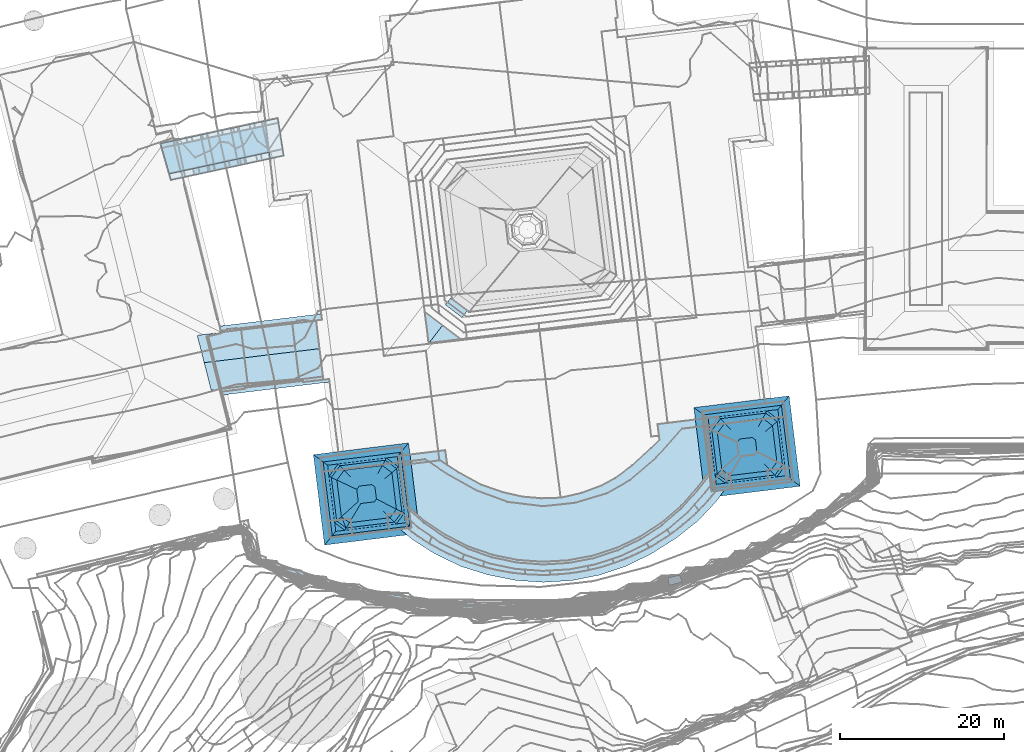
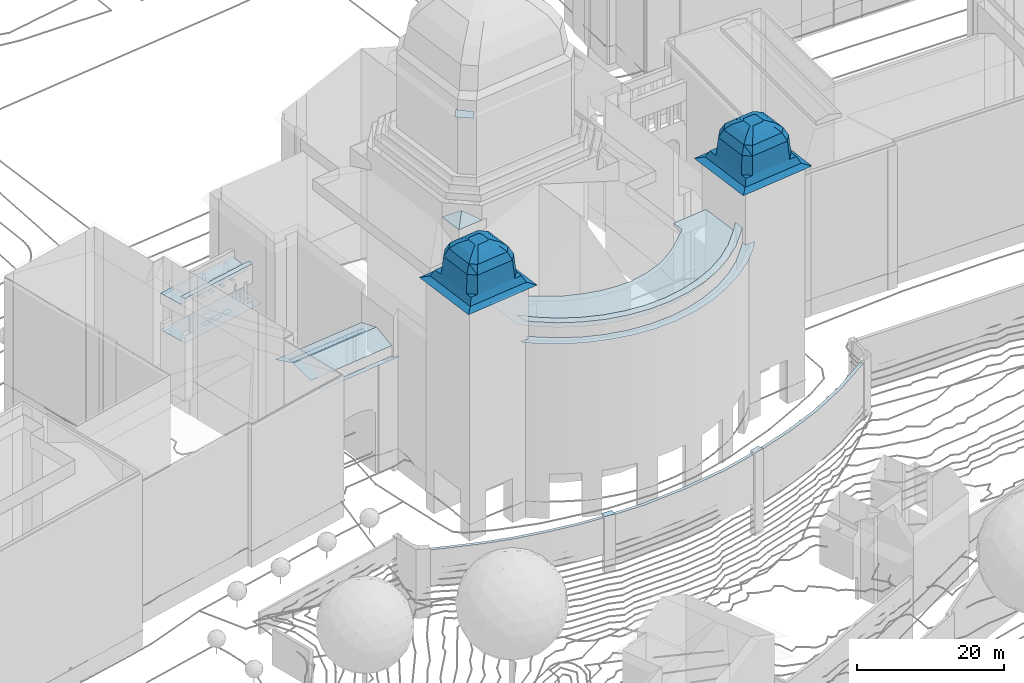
# Not in any storey, part 77 of 494: 28 roofs.
"""IFC2X3 model written with IfcOpenShell, lengths in metres."""

from ifc_helpers import new_model, si_unit, frame, origin_with_axes, place, context, subcontext, project, faceted_brep, element, save


model = new_model("IFC2X3")

# Units and contexts
model_context = context("Model", 3, precision=1e-05, world=origin_with_axes())
body_context = subcontext(model_context, "Body", "Model", "MODEL_VIEW")
ifc_project = project(units=[si_unit("AREAUNIT", "SQUARE_METRE"), si_unit("LENGTHUNIT", "METRE")], contexts=[model_context])

# Roofs
roof_1_placement = place(None, frame((211.8297320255, 101.9383160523, 526.7541), z_axis=(0.0, 0.0, 1.0), x_axis=(1.0, 0.0, 0.0)))
element("IfcRoof", 1, at=roof_1_placement, Name="Roof 0", ShapeType="NOTDEFINED", context=body_context, shape_type="Brep", body=[
    faceted_brep([(361.4830000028, 253.5117000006, 13.1967), (355.7120000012, 250.2899999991, 13.1967), (355.9690000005, 249.8583999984, 13.1967), (361.2360000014, 253.9481999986, 13.1967), (350.2200000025, 246.7958999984, 13.1967), (350.0040000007, 247.2490000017, 13.1967), (339.068, 243.1387000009, 13.1968), (339.2430000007, 242.6669999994, 13.1968), (345.0600000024, 245.1601000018, 13.1967), (345.2380000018, 244.6904000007, 13.1967)], [[[0, 1, 2]], [[1, 0, 3]], [[4, 2, 1]], [[1, 5, 4]], [[6, 7, 8]], [[5, 9, 4]], [[9, 5, 8]], [[9, 8, 7]]]),
])
roof_2_placement = place(None, frame((211.8297320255, 101.9383160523, 526.7541), z_axis=(0.0, 0.0, 1.0), x_axis=(1.0, 0.0, 0.0)))
element("IfcRoof", 2, at=roof_2_placement, Name="Roof 5", ShapeType="NOTDEFINED", context=body_context, shape_type="Brep", body=[
    faceted_brep([(281.6770000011, 292.5478000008, 24.302), (281.5109999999, 293.317400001, 24.302), (280.4050000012, 292.2734000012, 24.302), (280.2390000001, 293.0430000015, 24.302)], [[[0, 1, 2]], [[3, 2, 1]]]),
])
roof_3_placement = place(None, frame((211.8297320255, 101.9383160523, 526.7541), z_axis=(0.0, 0.0, 1.0), x_axis=(1.0, 0.0, 0.0)))
element("IfcRoof", 3, at=roof_3_placement, Name="Roof 6", ShapeType="NOTDEFINED", context=body_context, shape_type="Brep", body=[
    faceted_brep([(283.569000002, 292.9550999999, 24.302), (283.4030000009, 293.7256000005, 24.302), (282.0480000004, 293.433600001, 24.302), (282.2129999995, 292.6631000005, 24.302)], [[[0, 1, 2]], [[2, 3, 0]]]),
])
roof_4_placement = place(None, frame((211.8297320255, 101.9383160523, 526.7541), z_axis=(0.0, 0.0, 1.0), x_axis=(1.0, 0.0, 0.0)))
element("IfcRoof", 4, at=roof_4_placement, Name="Roof 7", ShapeType="NOTDEFINED", context=body_context, shape_type="Brep", body=[
    faceted_brep([(285.4720000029, 293.3652000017, 24.302), (285.3049999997, 294.1356999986, 24.302), (284.1090000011, 293.0713, 24.302), (283.943, 293.8418000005, 24.302)], [[[0, 1, 2]], [[3, 2, 1]]]),
])
roof_5_placement = place(None, frame((211.8297320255, 101.9383160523, 526.7541), z_axis=(0.0, 0.0, 1.0), x_axis=(1.0, 0.0, 0.0)))
element("IfcRoof", 5, at=roof_5_placement, Name="Roof 9", ShapeType="NOTDEFINED", context=body_context, shape_type="Brep", body=[
    faceted_brep([(290.0230000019, 298.4756000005, 23.1101), (276.8790000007, 291.5137000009, 23.1101), (290.5290000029, 295.2606999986, 23.1101), (275.756000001, 295.4052999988, 23.1101), (290.6510000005, 294.4814000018, 23.1101), (289.932, 299.0566000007, 23.1101), (275.7540000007, 295.4101000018, 23.1101), (275.5940000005, 295.9657999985, 23.1101)], [[[0, 1, 2]], [[3, 1, 0]], [[1, 4, 2]], [[0, 5, 6]], [[0, 6, 3]], [[5, 7, 6]]]),
])
roof_6_placement = place(None, frame((211.8297320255, 101.9383160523, 526.7541), z_axis=(0.0, 0.0, 1.0), x_axis=(1.0, 0.0, 0.0)))
element("IfcRoof", 6, at=roof_6_placement, Name="Roof 16", ShapeType="NOTDEFINED", context=body_context, shape_type="Brep", body=[
    faceted_brep([(283.569000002, 292.9560000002, 29.1525), (284.1090000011, 293.0722000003, 29.1525), (283.943, 293.8418000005, 29.1525), (283.4030000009, 293.7245999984, 29.1525)], [[[0, 1, 2]], [[2, 3, 0]]]),
])
roof_7_placement = place(None, frame((211.8297320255, 101.9383160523, 526.7541), z_axis=(0.0, 0.0, 1.0), x_axis=(1.0, 0.0, 0.0)))
element("IfcRoof", 7, at=roof_7_placement, Name="Roof 18", ShapeType="NOTDEFINED", context=body_context, shape_type="Brep", body=[
    faceted_brep([(280.2390000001, 293.0430000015, 29.1525), (279.5840000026, 292.9023000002, 29.1525), (280.4050000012, 292.2743999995, 29.1525), (279.751000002, 292.1328000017, 29.1525)], [[[0, 1, 2]], [[3, 2, 1]]]),
])
roof_8_placement = place(None, frame((211.8297320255, 101.9383160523, 526.7541), z_axis=(0.0, 0.0, 1.0), x_axis=(1.0, 0.0, 0.0)))
element("IfcRoof", 8, at=roof_8_placement, Name="Roof 20", ShapeType="NOTDEFINED", context=body_context, shape_type="Brep", body=[
    faceted_brep([(285.4720000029, 293.3662, 29.1525), (285.9890000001, 293.4765000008, 29.1525), (285.8230000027, 294.246100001, 29.1525), (285.3049999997, 294.1347000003, 29.1525)], [[[0, 1, 2]], [[2, 3, 0]]]),
])
roof_9_placement = place(None, frame((211.8297320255, 101.9383160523, 526.7541), z_axis=(0.0, 0.0, 1.0), x_axis=(1.0, 0.0, 0.0)))
element("IfcRoof", 9, at=roof_9_placement, Name="Roof 24", ShapeType="NOTDEFINED", context=body_context, shape_type="Brep", body=[
    faceted_brep([(282.0480000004, 293.432599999, 29.1525), (281.5109999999, 293.316399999, 29.1525), (282.2129999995, 292.6631000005, 29.1525), (281.6770000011, 292.5478000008, 29.1525)], [[[0, 1, 2]], [[3, 2, 1]]]),
])
roof_10_placement = place(None, frame((211.8297320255, 101.9383160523, 526.7541), z_axis=(0.0, 0.0, 1.0), x_axis=(1.0, 0.0, 0.0)))
element("IfcRoof", 10, at=roof_10_placement, Name="Roof 48", ShapeType="NOTDEFINED", context=body_context, shape_type="Brep", body=[
    faceted_brep([(337.569000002, 242.8828000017, 13.5627), (337.745000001, 241.9609000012, 13.5627), (339.0240000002, 243.2588, 13.5627), (339.3520000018, 242.3768999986, 13.5627)], [[[0, 1, 2]], [[3, 2, 1]]]),
])
roof_11_placement = place(None, frame((211.8297320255, 101.9383160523, 526.7541), z_axis=(0.0, 0.0, 1.0), x_axis=(1.0, 0.0, 0.0)))
element("IfcRoof", 11, at=roof_11_placement, Name="Roof 78", ShapeType="NOTDEFINED", context=body_context, shape_type="Brep", body=[
    faceted_brep([(295.7070000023, 242.7060000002, 13.1968), (295.568, 242.2245999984, 13.1968), (299.6730000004, 241.6748000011, 13.1968), (299.5620000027, 241.1845999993, 13.1968), (291.0769999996, 243.6523000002, 13.1968), (288.4350000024, 245.1152000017, 13.1968), (288.2880000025, 244.6356999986, 13.1968), (291.2360000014, 244.128899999, 13.1968), (308.8740000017, 240.1737999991, 13.1968), (304.0160000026, 240.3407999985, 13.1968), (308.8210000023, 239.6748000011, 13.1968), (312.5280000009, 239.4081999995, 13.1968), (304.0970000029, 240.8348999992, 13.1968), (312.6000000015, 239.9061999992, 13.1968)], [[[0, 1, 2]], [[2, 1, 3]], [[1, 0, 4]], [[5, 6, 7]], [[4, 7, 6]], [[7, 4, 0]], [[8, 9, 10]], [[8, 10, 11]], [[2, 3, 12]], [[13, 8, 11]], [[12, 9, 8]], [[12, 3, 9]]]),
])
roof_12_placement = place(None, frame((211.8297320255, 101.9383160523, 526.7541), z_axis=(0.0, 0.0, 1.0), x_axis=(1.0, 0.0, 0.0)))
element("IfcRoof", 12, at=roof_12_placement, Name="Roof 79", ShapeType="NOTDEFINED", context=body_context, shape_type="Brep", body=[
    faceted_brep([(312.6220000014, 240.0546999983, 13.5627), (312.4869999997, 239.1259999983, 13.5627), (314.1160000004, 239.9472000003, 13.5627), (314.1410000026, 239.0088, 13.5627)], [[[0, 1, 2]], [[3, 2, 1]]]),
])
roof_13_placement = place(None, frame((211.8297320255, 101.9383160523, 526.7541), z_axis=(0.0, 0.0, 1.0), x_axis=(1.0, 0.0, 0.0)))
element("IfcRoof", 13, at=roof_13_placement, Name="Roof 80", ShapeType="NOTDEFINED", context=body_context, shape_type="Brep", body=[
    faceted_brep([(314.132000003, 239.3476000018, 13.1968), (318.8709999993, 239.2518999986, 13.1968), (318.8550000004, 239.754900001, 13.1968), (314.1180000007, 239.8495999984, 13.1968), (325.882000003, 240.3310000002, 13.1968), (325.943, 239.8330000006, 13.1968), (332.6730000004, 240.9354999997, 13.1968), (332.5710000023, 241.4277000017, 13.1968), (337.6970000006, 242.2089999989, 13.1968), (337.6030000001, 242.7030999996, 13.1968)], [[[0, 1, 2]], [[2, 3, 0]], [[4, 2, 1]], [[1, 5, 4]], [[6, 7, 4]], [[8, 7, 6]], [[7, 8, 9]], [[4, 5, 6]]]),
])
roof_14_placement = place(None, frame((516.5377320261, 359.7107160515, 536.6602), z_axis=(0.0, 0.0, 1.0), x_axis=(1.0, 0.0, 0.0)))
element("IfcRoof", 14, at=roof_14_placement, Name="Roof 1", ShapeType="NOTDEFINED", context=body_context, shape_type="Brep", body=[
    faceted_brep([(3.6610000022, 13.7872000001, 33.0869), (5.3359999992, 15.9688000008, 34.4167), (3.1920000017, 17.6044999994, 33.0869), (7.5659999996, 14.2657000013, 33.0869)], [[[0, 1, 2]], [[1, 0, 3]]]),
])
roof_15_placement = place(None, frame((516.5377320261, 359.7107160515, 536.6602), z_axis=(0.0, 0.0, 1.0), x_axis=(1.0, 0.0, 0.0)))
element("IfcRoof", 15, at=roof_15_placement, Name="Roof 2", ShapeType="NOTDEFINED", context=body_context, shape_type="Brep", body=[
    faceted_brep([(6.5350000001, 19.1534000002, 48.7154), (6.4930000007, 19.496100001, 48.8224), (5.6970000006, 18.4893000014, 48.2674), (8.3650000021, 17.7569000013, 48.7154), (7.7219999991, 16.9444000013, 48.2674)], [[[0, 1, 2]], [[3, 0, 4]], [[4, 0, 2]]]),
])
roof_16_placement = place(None, frame((516.5377320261, 359.7107160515, 536.6602), z_axis=(0.0, 0.0, 1.0), x_axis=(1.0, 0.0, 0.0)))
element("IfcRoof", 16, at=roof_16_placement, Name="Roof 12", ShapeType="NOTDEFINED", context=body_context, shape_type="Brep", body=[
    faceted_brep([(41.0329999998, -1.4228000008, 44.8107), (40.4589999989, -2.3797999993, 44.0418), (45.432, -1.7705000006, 44.0418), (44.6460000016, -0.9793999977, 44.8107), (41.8630000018, -0.0361000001, 45.3876), (43.5080000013, 0.1660999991, 45.3876), (39.9030000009, -3.3084999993, 39.8132), (38.6660000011, -2.3924999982, 39.8132), (38.7950000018, -3.4452999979, 39.8132), (46.2019999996, -0.7265000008, 44.0418), (45.2060000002, -0.2206999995, 44.8107), (43.7630000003, 0.5108000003, 45.3876), (37.9690000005, 3.2793000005, 39.8132), (39.0969999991, 4.8027999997, 39.8132), (37.800999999, 4.6436000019, 39.8132), (47.1689999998, -1.2177000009, 39.8132), (46.193, -2.5361000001, 39.8132), (47.3139999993, -2.3983999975, 39.8132), (39.9220000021, 2.3614000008, 44.8107), (38.9299999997, 2.8282000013, 44.0418), (40.3220000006, -0.8973999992, 44.8107), (39.4809999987, -1.6571999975, 44.0418), (41.3579999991, 1.6865999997, 45.3876), (41.5390000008, 0.2032000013, 45.3876), (40.068, -3.0321999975, 42.7929), (45.9670000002, -2.307599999, 42.7929), (38.9090000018, -2.1728000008, 42.7929), (46.881000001, -1.0722000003, 42.7929), (38.3650000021, -3.9668000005, 38.7563), (47.8570000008, -2.8006999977, 38.7563), (37.2580000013, 5.0469000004, 38.7563), (38.254999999, 3.1436000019, 42.7929), (39.9030000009, -3.3084999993, 39.6132), (40.068, -3.0321999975, 42.5929), (46.193, -2.5361000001, 39.6132), (45.9670000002, -2.307599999, 42.5929), (43.0170000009, -2.6699000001, 42.7889), (38.9090000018, -2.1728000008, 42.5929), (38.6660000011, -2.3924999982, 39.6132), (37.9690000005, 3.2793000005, 39.6132), (38.254999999, 3.1436000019, 42.5929), (46.881000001, -1.0722000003, 42.5929), (47.1689999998, -1.2177000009, 39.6132)], [[[0, 1, 2]], [[2, 3, 0]], [[4, 0, 3]], [[3, 5, 4]], [[6, 7, 8]], [[2, 9, 3]], [[10, 3, 9]], [[3, 10, 5]], [[11, 5, 10]], [[12, 13, 14]], [[15, 16, 17]], [[18, 19, 20]], [[21, 20, 19]], [[22, 18, 23]], [[20, 23, 18]], [[1, 24, 25]], [[25, 2, 1]], [[24, 21, 26]], [[2, 25, 9]], [[27, 9, 25]], [[28, 6, 8]], [[6, 28, 16]], [[16, 29, 17]], [[29, 16, 28]], [[30, 12, 14]], [[12, 30, 28]], [[7, 28, 8]], [[28, 7, 12]], [[19, 31, 21]], [[26, 21, 31]], [[32, 33, 34]], [[35, 34, 33]], [[24, 6, 36]], [[36, 16, 25]], [[16, 36, 6]], [[24, 26, 7]], [[7, 6, 24]], [[37, 33, 38]], [[32, 38, 33]], [[31, 12, 26]], [[7, 26, 12]], [[39, 40, 37]], [[37, 38, 39]], [[27, 25, 15]], [[16, 15, 25]], [[35, 41, 42]], [[42, 34, 35]]]),
])
roof_17_placement = place(None, frame((516.5377320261, 359.7107160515, 536.6602), z_axis=(0.0, 0.0, 1.0), x_axis=(1.0, 0.0, 0.0)))
element("IfcRoof", 17, at=roof_17_placement, Name="Roof 13", ShapeType="NOTDEFINED", context=body_context, shape_type="Brep", body=[
    faceted_brep([(40.5710000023, 3.2364000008, 44.8107), (39.8220000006, 4.0322999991, 44.0418), (39.9220000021, 2.3614000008, 44.8107), (38.9299999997, 2.8282000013, 44.0418), (41.6530000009, 2.0859999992, 45.3876), (41.3579999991, 1.6865999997, 45.3876), (43.9539999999, 3.6524000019, 44.8107), (44.4800000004, 4.6044999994, 44.0418), (43.193, 2.2745000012, 45.3876), (41.0329999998, -1.4228000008, 44.8107), (40.3220000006, -0.8973999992, 44.8107), (39.4809999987, -1.6571999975, 44.0418), (40.4589999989, -2.3797999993, 44.0418), (41.8630000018, -0.0361000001, 45.3876), (41.5390000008, 0.2032000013, 45.3876), (43.7630000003, 0.5108000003, 45.3876), (43.5820000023, 1.9864000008, 45.3876), (43.5080000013, 0.1660999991, 45.3876), (45.2060000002, -0.2206999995, 44.8107), (46.2019999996, -0.7265000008, 44.0418), (45.6550000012, 3.7354000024, 44.0418), (44.8080000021, 3.0196000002, 44.8107), (38.2129999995, -4.1523000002, 38.6973), (37.4200000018, -5.1141999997, 38.3933), (48.2199999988, -3.0692999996, 38.6463), (38.3650000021, -3.9668000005, 38.7563), (47.8570000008, -2.8006999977, 38.7563), (49.0520000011, -3.6844999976, 38.3933), (37.069000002, 5.1865999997, 38.6993), (37.2580000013, 5.0469000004, 38.7563), (36.063000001, 5.9307000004, 38.3933), (47.0450000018, 6.572300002, 38.6423), (47.6950000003, 7.3604000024, 38.3933), (46.75, 6.2129000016, 38.7563), (44.9890000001, 5.5274000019, 39.8132), (46.4750000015, 4.4257999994, 39.8132), (46.3200000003, 5.6905000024, 39.8132), (39.313000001, 4.5733000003, 42.7929), (38.254999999, 3.1436000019, 42.7929), (44.8370000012, 5.2520000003, 42.7929), (40.068, -3.0321999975, 42.7929), (46.881000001, -1.0722000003, 42.7929), (46.2309999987, 4.2197999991, 42.7929), (39.0969999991, 4.8027999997, 39.8132), (37.800999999, 4.6436000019, 39.8132), (47.1689999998, -1.2177000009, 39.8132), (47.3139999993, -2.3983999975, 39.8132), (37.9690000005, 3.2793000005, 39.8132), (37.9690000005, 3.2793000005, 39.6132), (39.0969999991, 4.8027999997, 39.6132), (38.254999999, 3.1436000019, 42.5929), (39.313000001, 4.5733000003, 42.5929), (44.9890000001, 5.5274000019, 39.6132), (44.8370000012, 5.2520000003, 42.5929), (47.1689999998, -1.2177000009, 39.6132), (46.881000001, -1.0722000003, 42.5929), (46.4750000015, 4.4257999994, 39.6132), (46.2309999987, 4.2197999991, 42.5929)], [[[0, 1, 2]], [[3, 2, 1]], [[0, 2, 4]], [[5, 4, 2]], [[6, 7, 0]], [[1, 0, 7]], [[8, 6, 4]], [[0, 4, 6]], [[9, 10, 11]], [[11, 12, 9]], [[13, 14, 10]], [[10, 9, 13]], [[5, 14, 15]], [[8, 4, 5]], [[15, 14, 13]], [[16, 5, 15]], [[8, 5, 16]], [[15, 13, 17]], [[18, 19, 20]], [[20, 21, 18]], [[15, 18, 21]], [[21, 16, 15]], [[22, 23, 24]], [[25, 22, 26]], [[22, 24, 26]], [[24, 23, 27]], [[28, 25, 29]], [[22, 28, 30]], [[28, 22, 25]], [[22, 30, 23]], [[31, 32, 30]], [[33, 31, 28]], [[28, 29, 33]], [[30, 28, 31]], [[24, 27, 31]], [[26, 24, 33]], [[24, 31, 33]], [[31, 27, 32]], [[34, 35, 36]], [[21, 20, 7]], [[7, 6, 21]], [[8, 16, 21]], [[21, 6, 8]], [[1, 37, 3]], [[38, 3, 37]], [[7, 39, 1]], [[37, 1, 39]], [[11, 40, 12]], [[19, 41, 42]], [[42, 20, 19]], [[33, 34, 36]], [[34, 33, 29]], [[43, 29, 44]], [[29, 43, 34]], [[26, 45, 46]], [[45, 26, 35]], [[35, 33, 36]], [[33, 35, 26]], [[20, 42, 39]], [[39, 7, 20]], [[43, 47, 38]], [[38, 37, 43]], [[48, 49, 50]], [[51, 50, 49]], [[39, 34, 37]], [[43, 37, 34]], [[52, 53, 51]], [[51, 49, 52]], [[41, 45, 35]], [[35, 42, 41]], [[54, 55, 56]], [[57, 56, 55]], [[39, 42, 35]], [[35, 34, 39]], [[57, 53, 56]], [[52, 56, 53]]]),
])
roof_18_placement = place(None, frame((516.5377320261, 359.7107160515, 536.6602), z_axis=(0.0, 0.0, 1.0), x_axis=(1.0, 0.0, 0.0)))
element("IfcRoof", 18, at=roof_18_placement, Name="Roof 18", ShapeType="NOTDEFINED", context=body_context, shape_type="Brep", body=[
    faceted_brep([(-16.2919999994, 40.9571000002, 19.2464), (-29.1140000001, 38.1933999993, 19.2464), (-16.0130000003, 38.6807000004, 19.2464), (-28.0480000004, 34.5, 19.2464), (-15.8289999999, 37.1338, 19.2464)], [[[0, 1, 2]], [[3, 2, 1]], [[3, 4, 2]]]),
])
roof_19_placement = place(None, frame((516.5377320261, 359.7107160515, 536.6602), z_axis=(0.0, 0.0, 1.0), x_axis=(1.0, 0.0, 0.0)))
element("IfcRoof", 19, at=roof_19_placement, Name="Roof 19", ShapeType="NOTDEFINED", context=body_context, shape_type="Brep", body=[
    faceted_brep([(-15.8220000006, 37.134800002, 20.6043), (-28.0480000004, 34.5, 20.6043), (-15.7249999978, 36.3476999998, 20.6043), (-27.8289999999, 33.7402999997, 20.6043)], [[[0, 1, 2]], [[3, 2, 1]]]),
])
roof_20_placement = place(None, frame((516.5377320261, 359.7107160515, 536.6602), z_axis=(0.0, 0.0, 1.0), x_axis=(1.0, 0.0, 0.0)))
element("IfcRoof", 20, at=roof_20_placement, Name="Roof 20", ShapeType="NOTDEFINED", context=body_context, shape_type="Brep", body=[
    faceted_brep([(2.3819999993, -8.7597000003, 29.4762), (1.5490000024, -8.7743999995, 29.4762), (1.5800000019, -10.1405999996, 29.4762), (1.0340000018, -8.8398000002, 29.4762), (0.1790000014, -8.9442999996, 29.4762), (4.3320000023, -11.9002999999, 29.4762), (5.0839999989, -10.5995999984, 29.4762), (7.568, -13.4725999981, 29.4762), (10.8670000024, -14.5018999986, 29.4762), (8.0020000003, -12.0711999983, 29.4762), (11.0879999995, -13.1483999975, 29.4762), (14.2459999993, -15.1844999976, 29.4762), (1.4809999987, -8.2557999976, 29.4762), (1.4479999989, -7.9266999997, 29.4762), (14.2879999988, -13.8143999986, 29.4762), (17.6850000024, -15.4208999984, 29.4762), (17.5480000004, -14.0555999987, 29.4762), (21.125, -15.2060000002, 29.4762), (20.8110000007, -13.8710999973, 29.4762), (24.5080000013, -14.5438999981, 29.4762), (24.0219999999, -13.2606999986, 29.4762), (27.7750000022, -13.4461999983, 29.4761), (30.0700000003, -10.8182999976, 29.4762), (27.126000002, -12.2381999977, 29.4762), (30.8709999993, -11.9305999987, 29.4761), (33.8949999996, -10.0214000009, 29.4761), (32.8029999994, -9.0262999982, 29.4762), (36.5210000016, -7.9452999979, 29.4761), (35.2800000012, -6.8915999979, 29.4762), (38.8399999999, -5.4959999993, 29.4761), (37.4310000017, -4.4824000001, 29.4762), (38.2340000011, -4.3270999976, 29.4762), (38.1429999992, -3.5742000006, 29.4762), (38.7580000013, -4.2987999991, 29.4762), (39.762000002, -4.1620999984, 29.4762)], [[[0, 1, 2]], [[3, 4, 2]], [[1, 3, 2]], [[2, 5, 6]], [[7, 8, 9]], [[6, 5, 9]], [[8, 10, 9]], [[2, 6, 0]], [[9, 5, 7]], [[11, 10, 8]], [[12, 1, 0]], [[13, 12, 0]], [[11, 14, 10]], [[14, 11, 15]], [[14, 15, 16]], [[16, 17, 18]], [[17, 16, 15]], [[18, 17, 19]], [[20, 19, 21]], [[19, 20, 18]], [[22, 23, 24]], [[21, 23, 20]], [[24, 23, 21]], [[25, 26, 22]], [[26, 25, 27]], [[25, 22, 24]], [[28, 27, 29]], [[27, 28, 26]], [[28, 29, 30]], [[30, 31, 32]], [[29, 31, 30]], [[31, 29, 33]], [[29, 34, 33]]]),
])
roof_21_placement = place(None, frame((516.5377320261, 359.7107160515, 536.6602), z_axis=(0.0, 0.0, 1.0), x_axis=(1.0, 0.0, 0.0)))
element("IfcRoof", 21, at=roof_21_placement, Name="Roof 21", ShapeType="NOTDEFINED", context=body_context, shape_type="Brep", body=[
    faceted_brep([(29.5179999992, -9.8418000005, 30.3921), (19.8020000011, -5.1034999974, 30.3921), (26.7060000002, -11.1981999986, 30.3921), (23.7410000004, -12.1756999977, 30.3921), (32.1290000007, -8.1297999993, 30.3921), (22.443, -4.4969999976, 30.3921), (24.8040000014, -3.5995999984, 30.3921), (36.5720000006, -3.7626999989, 30.3921), (26.4290000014, -2.7040999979, 30.3921), (34.493999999, -6.0918000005, 30.3921), (37.9499999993, -2.0047999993, 30.3921), (28.4860000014, -1.2010999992, 30.3921), (14.444000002, -12.7040999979, 30.3921), (17.557, -12.9344999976, 30.3921), (11.3880000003, -12.0682999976, 30.3921), (8.4400000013, -11.0390000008, 30.3921), (17.4670000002, -5.182599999, 30.3921), (20.6740000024, -12.7577999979, 30.3921), (15.1059999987, -4.9715999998, 30.3921), (3.0720000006, -7.8768999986, 30.3921), (5.6530000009, -9.6327999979, 30.3921), (12.6689999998, -4.4178999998, 30.3921), (30.8469999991, 0.9882999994, 30.3921), (37.1460000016, 4.5595999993, 30.3921), (31.8709999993, 2.0069000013, 30.3921), (31.6409999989, 3.8838, 30.3921), (10.0540000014, -3.5214000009, 30.3921), (1.243999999, -6.2381999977, 30.3921), (0.8310000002, -2.8299999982, 30.3921), (7.313000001, -2.0174999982, 30.3921), (5.9479999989, -1.123999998, 30.3921), (0.4849999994, 0.058600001, 30.3921), (5.7030000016, 0.7002000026, 30.3921)], [[[0, 1, 2]], [[2, 1, 3]], [[0, 4, 5]], [[6, 7, 8]], [[9, 6, 5]], [[6, 9, 7]], [[9, 5, 4]], [[7, 10, 11]], [[5, 1, 0]], [[12, 13, 1]], [[12, 1, 14]], [[15, 14, 16]], [[17, 1, 13]], [[18, 15, 16]], [[19, 20, 21]], [[20, 15, 18]], [[21, 20, 18]], [[16, 14, 1]], [[17, 3, 1]], [[11, 10, 22]], [[8, 7, 11]], [[10, 23, 22]], [[22, 23, 24]], [[25, 24, 23]], [[26, 27, 19]], [[28, 27, 29]], [[27, 26, 29]], [[19, 21, 26]], [[30, 31, 28]], [[32, 31, 30]], [[30, 28, 29]]]),
])
roof_22_placement = place(None, frame((516.5377320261, 359.7107160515, 536.6602), z_axis=(0.0, 0.0, 1.0), x_axis=(1.0, 0.0, 0.0)))
element("IfcRoof", 22, at=roof_22_placement, Name="Roof 22", ShapeType="NOTDEFINED", context=body_context, shape_type="Brep", body=[
    faceted_brep([(11.0879999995, -13.1483999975, 31.9489), (11.3880000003, -12.0682999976, 31.9489), (8.0020000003, -12.0711999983, 31.9489), (14.444000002, -12.7040999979, 31.9489), (8.4400000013, -11.0390000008, 31.9489), (5.0839999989, -10.5995999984, 31.9489), (17.557, -12.9344999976, 31.9489), (17.5480000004, -14.0555999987, 31.9489), (20.6740000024, -12.7577999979, 31.9489), (14.2879999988, -13.8143999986, 31.9489), (3.0720000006, -7.8768999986, 31.9489), (1.4389999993, -7.9188999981, 31.9489), (2.3819999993, -8.7597000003, 31.9489), (5.6530000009, -9.6327999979, 31.9489), (1.2380000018, -6.2324000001, 31.9489), (20.8110000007, -13.8710999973, 31.9489), (30.0700000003, -10.8182999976, 31.9489), (32.8029999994, -9.0262999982, 31.9489), (32.1290000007, -8.1297999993, 31.9489), (29.5179999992, -9.8418000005, 31.9489), (27.126000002, -12.2381999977, 31.9489), (35.2800000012, -6.8915999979, 31.9489), (37.4310000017, -4.4824000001, 31.9489), (34.493999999, -6.0918000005, 31.9489), (36.5720000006, -3.7626999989, 31.9489), (38.1429999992, -3.5751999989, 31.9489), (24.0219999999, -13.2606999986, 31.9489), (26.7060000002, -11.1981999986, 31.9489), (23.7410000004, -12.1756999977, 31.9489), (37.9499999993, -2.0047999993, 31.9489)], [[[0, 1, 2]], [[1, 0, 3]], [[2, 4, 5]], [[4, 2, 1]], [[6, 7, 8]], [[9, 6, 3]], [[6, 9, 7]], [[9, 3, 0]], [[10, 11, 12]], [[13, 10, 12]], [[13, 5, 4]], [[14, 11, 10]], [[12, 5, 13]], [[8, 7, 15]], [[16, 17, 18]], [[18, 19, 16]], [[16, 19, 20]], [[17, 21, 18]], [[21, 22, 23]], [[23, 22, 24]], [[25, 24, 22]], [[21, 23, 18]], [[26, 27, 28]], [[26, 20, 27]], [[8, 15, 28]], [[28, 15, 26]], [[24, 25, 29]], [[20, 19, 27]]]),
])
roof_23_placement = place(None, frame((516.5377320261, 359.7107160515, 536.6602), z_axis=(0.0, 0.0, 1.0), x_axis=(1.0, 0.0, 0.0)))
element("IfcRoof", 23, at=roof_23_placement, Name="Roof 23", ShapeType="NOTDEFINED", context=body_context, shape_type="Brep", body=[
    faceted_brep([(-5.4679999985, -7.1756999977, 44.8107), (-6.0419999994, -8.1327999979, 44.0418), (-1.0689999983, -7.5233999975, 44.0418), (-1.8550000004, -6.7324000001, 44.8107), (-4.6380000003, -5.7890000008, 45.3877), (-2.9930000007, -5.5868999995, 45.3877), (-6.5980000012, -9.0625, 39.8132), (-7.8350000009, -8.1464000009, 39.8132), (-7.7060000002, -9.1981999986, 39.8132), (-0.2989999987, -6.4803999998, 44.0418), (-1.2949999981, -5.9736000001, 44.8107), (-2.737999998, -5.2421000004, 45.3877), (-8.5319999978, -2.4736000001, 39.8132), (-7.4039999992, -0.9501999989, 39.8132), (-8.6999999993, -1.1092999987, 39.8132), (0.6680000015, -6.9706999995, 39.8132), (-0.3079999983, -8.2890000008, 39.8132), (0.813000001, -8.1512999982, 39.8132), (-6.5789999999, -3.3915999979, 44.8107), (-7.5709999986, -2.9247999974, 44.0418), (-6.1789999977, -6.6502999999, 44.8107), (-7.0199999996, -7.4100999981, 44.0418), (-5.1429999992, -4.066399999, 45.3877), (-4.9620000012, -5.5497999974, 45.3877), (-6.4329999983, -8.7850999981, 42.7929), (-0.5339999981, -8.061499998, 42.7929), (-7.5920000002, -7.9256999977, 42.7929), (0.379999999, -6.8251999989, 42.7929), (-8.1359999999, -9.7196999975, 38.7563), (1.3559999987, -8.5537, 38.7563), (-9.2430000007, -0.7060000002, 38.7563), (-8.2459999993, -2.6092999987, 42.7929), (-3.4840000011, -8.4228000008, 42.7889), (-6.5980000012, -9.0625, 39.6132), (-6.4329999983, -8.7850999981, 42.5929), (-0.3079999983, -8.2890000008, 39.6132), (-0.5339999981, -8.061499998, 42.5929), (-7.5920000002, -7.9256999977, 42.5929), (-7.8350000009, -8.1464000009, 39.6132), (-8.5319999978, -2.4736000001, 39.6132), (-8.2459999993, -2.6092999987, 42.5929), (0.379999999, -6.8251999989, 42.5929), (0.6680000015, -6.9706999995, 39.6132)], [[[0, 1, 2]], [[2, 3, 0]], [[4, 0, 3]], [[3, 5, 4]], [[6, 7, 8]], [[2, 9, 3]], [[10, 3, 9]], [[3, 10, 5]], [[11, 5, 10]], [[12, 13, 14]], [[15, 16, 17]], [[18, 19, 20]], [[21, 20, 19]], [[22, 18, 23]], [[20, 23, 18]], [[1, 24, 25]], [[25, 2, 1]], [[24, 21, 26]], [[2, 25, 9]], [[27, 9, 25]], [[28, 6, 8]], [[6, 28, 16]], [[16, 29, 17]], [[29, 16, 28]], [[30, 12, 14]], [[12, 30, 28]], [[7, 28, 8]], [[28, 7, 12]], [[19, 31, 21]], [[26, 21, 31]], [[25, 24, 32]], [[33, 34, 35]], [[36, 35, 34]], [[24, 6, 32]], [[32, 16, 25]], [[16, 32, 6]], [[24, 26, 7]], [[7, 6, 24]], [[37, 34, 38]], [[33, 38, 34]], [[31, 12, 26]], [[7, 26, 12]], [[39, 40, 37]], [[37, 38, 39]], [[27, 25, 15]], [[16, 15, 25]], [[36, 41, 35]], [[42, 35, 41]]]),
])
roof_24_placement = place(None, frame((516.5377320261, 359.7107160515, 536.6602), z_axis=(0.0, 0.0, 1.0), x_axis=(1.0, 0.0, 0.0)))
element("IfcRoof", 24, at=roof_24_placement, Name="Roof 24", ShapeType="NOTDEFINED", context=body_context, shape_type="Brep", body=[
    faceted_brep([(-5.9299999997, -2.5165999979, 44.8107), (-6.6789999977, -1.7206999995, 44.0418), (-6.5789999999, -3.3915999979, 44.8107), (-7.5709999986, -2.9247999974, 44.0418), (-5.1429999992, -4.066399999, 45.3877), (-4.8480000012, -3.6668999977, 45.3877), (-2.5469999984, -2.1004999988, 44.8107), (-2.0209999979, -1.1483999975, 44.0418), (-3.3079999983, -3.4793999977, 45.3877), (-5.4679999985, -7.1756999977, 44.8107), (-6.1789999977, -6.6502999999, 44.8107), (-7.0199999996, -7.4100999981, 44.0418), (-6.0419999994, -8.1327999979, 44.0418), (-4.6380000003, -5.7890000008, 45.3877), (-4.9620000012, -5.5497999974, 45.3877), (-2.9930000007, -5.5868999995, 45.3877), (-2.737999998, -5.2421000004, 45.3877), (-2.9189999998, -3.7665999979, 45.3877), (-1.2949999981, -5.9736000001, 44.8107), (-0.2989999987, -6.4803999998, 44.0418), (-0.8460000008, -2.0174999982, 44.0418), (-1.693, -2.7333999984, 44.8107), (-8.3619999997, -9.9941000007, 38.6693), (1.3559999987, -8.5537, 38.7563), (-8.1359999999, -9.7196999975, 38.7563), (2.550999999, -9.4384000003, 38.3933), (-9.0810000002, -10.8671000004, 38.3933), (-9.5489999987, -0.4794999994, 38.6633), (-9.2430000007, -0.7060000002, 38.7563), (-10.438000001, 0.1777999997, 38.3934), (0.4129999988, 0.6601999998, 38.6933), (1.194000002, 1.6075000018, 38.3933), (0.2490000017, 0.4600000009, 38.7563), (-1.5119999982, -0.2254999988, 39.8132), (-0.0260000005, -1.3270999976, 39.8132), (-0.180999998, -0.0634000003, 39.8132), (-7.188000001, -1.1796000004, 42.7929), (-8.2459999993, -2.6092999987, 42.7929), (-1.6640000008, -0.5009000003, 42.7929), (-6.4329999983, -8.7850999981, 42.7929), (0.379999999, -6.8251999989, 42.7929), (-0.2699999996, -1.5331999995, 42.7929), (-7.4039999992, -0.9501999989, 39.8132), (-8.6999999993, -1.1092999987, 39.8132), (0.6680000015, -6.9706999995, 39.8132), (0.813000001, -8.1512999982, 39.8132), (-8.5319999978, -2.4736000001, 39.8132), (-8.5319999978, -2.4736000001, 39.6132), (-7.4039999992, -0.9501000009, 39.6132), (-8.2459999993, -2.6092999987, 42.5929), (-7.188000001, -1.1796000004, 42.5929), (-1.5119999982, -0.2254999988, 39.6132), (-1.6640000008, -0.5009000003, 42.5929), (0.6680000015, -6.9706999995, 39.6132), (0.379999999, -6.8251999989, 42.5929), (-0.0260000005, -1.3270999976, 39.6132), (-0.2699999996, -1.5331999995, 42.5929)], [[[0, 1, 2]], [[3, 2, 1]], [[0, 2, 4]], [[4, 5, 0]], [[6, 7, 0]], [[1, 0, 7]], [[8, 6, 5]], [[0, 5, 6]], [[9, 10, 11]], [[11, 12, 9]], [[13, 14, 10]], [[10, 9, 13]], [[14, 13, 4]], [[8, 5, 4]], [[4, 13, 8]], [[15, 16, 8]], [[17, 8, 16]], [[15, 8, 13]], [[18, 19, 20]], [[20, 21, 18]], [[16, 18, 21]], [[21, 17, 16]], [[22, 23, 24]], [[25, 22, 26]], [[23, 22, 25]], [[27, 22, 28]], [[26, 27, 29]], [[22, 24, 28]], [[26, 22, 27]], [[30, 31, 27]], [[32, 30, 28]], [[27, 28, 30]], [[29, 27, 31]], [[23, 25, 30]], [[23, 30, 32]], [[30, 25, 31]], [[33, 34, 35]], [[21, 20, 7]], [[7, 6, 21]], [[8, 17, 21]], [[21, 6, 8]], [[1, 36, 3]], [[37, 3, 36]], [[7, 38, 1]], [[36, 1, 38]], [[11, 39, 12]], [[19, 40, 41]], [[41, 20, 19]], [[32, 33, 35]], [[33, 32, 28]], [[42, 28, 43]], [[28, 42, 33]], [[23, 44, 45]], [[44, 23, 34]], [[34, 32, 35]], [[32, 34, 23]], [[20, 41, 38]], [[38, 7, 20]], [[42, 46, 37]], [[37, 36, 42]], [[47, 48, 49]], [[50, 49, 48]], [[38, 33, 36]], [[42, 36, 33]], [[51, 52, 50]], [[50, 48, 51]], [[40, 44, 34]], [[34, 41, 40]], [[53, 54, 55]], [[56, 55, 54]], [[38, 41, 34]], [[34, 33, 38]], [[56, 52, 55]], [[51, 55, 52]]]),
])
roof_25_placement = place(None, frame((516.5377320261, 359.7107160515, 536.6602), z_axis=(0.0, 0.0, 1.0), x_axis=(1.0, 0.0, 0.0)))
element("IfcRoof", 25, at=roof_25_placement, Name="Roof 26", ShapeType="NOTDEFINED", context=body_context, shape_type="Brep", body=[
    faceted_brep([(-21.6889999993, 15.1143000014, 19.1572), (-10.0789999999, 16.5254000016, 19.1572), (-10.0819999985, 16.5507999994, 19.1572), (-21.8779999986, 15.8858000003, 19.1572), (-9.3999999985, 16.947300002, 19.1572), (-9.432, 17.2071000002, 19.1572), (-9.4560000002, 17.3936000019, 19.1572), (-9.3649999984, 16.6425999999, 19.1572)], [[[0, 1, 2]], [[0, 2, 3]], [[2, 4, 3]], [[4, 5, 3]], [[6, 3, 5]], [[7, 4, 2]]]),
])
roof_26_placement = place(None, frame((516.5377320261, 359.7107160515, 536.6602), z_axis=(0.0, 0.0, 1.0), x_axis=(1.0, 0.0, 0.0)))
element("IfcRoof", 26, at=roof_26_placement, Name="Roof 27", ShapeType="NOTDEFINED", context=body_context, shape_type="Brep", body=[
    faceted_brep([(-9.1959999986, 9.3115999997, 19.1572), (-8.4399999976, 9.0538000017, 19.1572), (-8.4820000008, 9.3956000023, 19.1572), (-21.4829999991, 7.4706999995, 19.1572), (-21.6609999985, 8.192400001, 19.1572), (-9.2430000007, 9.6993000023, 19.1572)], [[[0, 1, 2]], [[3, 1, 4]], [[4, 1, 0]], [[5, 4, 0]]]),
])
roof_27_placement = place(None, frame((516.5377320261, 359.7107160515, 536.6602), z_axis=(0.0, 0.0, 1.0), x_axis=(1.0, 0.0, 0.0)))
element("IfcRoof", 27, at=roof_27_placement, Name="Roof 28", ShapeType="NOTDEFINED", context=body_context, shape_type="Brep", body=[
    faceted_brep([(-9.2430000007, 9.6993000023, 20.867), (-9.6640000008, 13.134800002, 22.0059), (-21.6609999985, 8.192400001, 20.8671), (-23.7829999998, 11.4209000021, 22.006), (-22.9179999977, 8.0391000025, 20.8671), (-24.6349999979, 14.7569000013, 20.8671), (-21.6889999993, 15.1143000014, 20.8671), (-10.9859999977, 16.4151000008, 20.8671), (-10.0789999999, 16.5245000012, 20.8671)], [[[0, 1, 2]], [[2, 1, 3]], [[3, 4, 2]], [[5, 3, 6]], [[6, 1, 7]], [[1, 6, 3]], [[8, 7, 1]]]),
])
roof_28_placement = place(None, frame((373.5987320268, 371.2869160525, 536.8784), z_axis=(0.0, 0.0, 1.0), x_axis=(1.0, 0.0, 0.0)))
element("IfcRoof", 28, at=roof_28_placement, Name="Roof 8", ShapeType="NOTDEFINED", context=body_context, shape_type="Brep", body=[
    faceted_brep([(115.8660000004, 26.4629000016, 19.0282), (115.7430000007, 27.0313000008, 19.0282), (113.9869999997, 26.0566999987, 19.0282), (113.8249999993, 26.6171999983, 19.0282)], [[[0, 1, 2]], [[3, 2, 1]]]),
])

save(model, "model.ifc")
